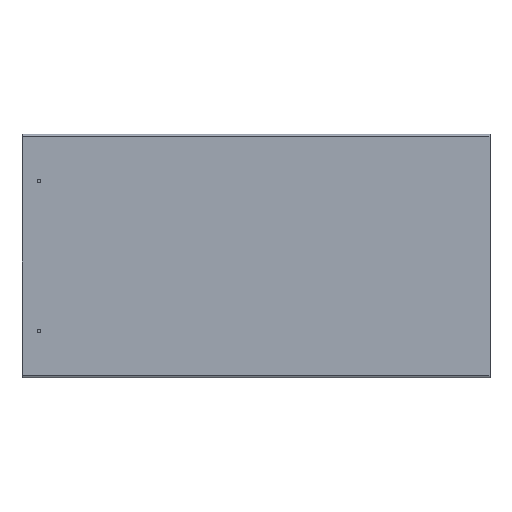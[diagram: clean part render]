
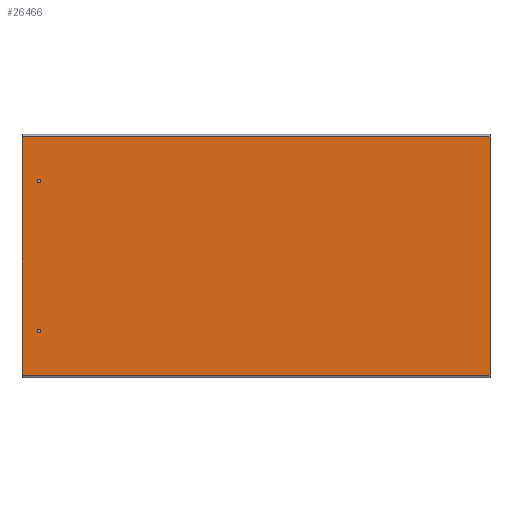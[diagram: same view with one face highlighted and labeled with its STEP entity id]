
A CAD part, top view. The second image highlights one B-rep face of the part: STEP entity #26466.
In plain terms, the highlighted planar face has unit normal (0, 0, 1) as drawn and (0, 0, -1) by its records, which use the part's own axes.
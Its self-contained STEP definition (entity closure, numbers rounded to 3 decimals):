
#755=FACE_BOUND('',#4382,.T.);
#756=FACE_BOUND('',#4383,.T.);
#1438=PLANE('',#29037);
#2703=FACE_OUTER_BOUND('',#4381,.T.);
#4381=EDGE_LOOP('',(#23616,#23617,#23618,#23619));
#4382=EDGE_LOOP('',(#23620));
#4383=EDGE_LOOP('',(#23621));
#6176=LINE('',#44530,#8528);
#6208=LINE('',#44710,#8560);
#6777=LINE('',#46196,#9129);
#6779=LINE('',#46201,#9131);
#8528=VECTOR('',#34798,1276.);
#8560=VECTOR('',#34952,1276.);
#9129=VECTOR('',#36431,2500.);
#9131=VECTOR('',#36439,2500.);
#10314=CIRCLE('',#28845,9.5);
#10316=CIRCLE('',#28848,9.5);
#12301=VERTEX_POINT('',#44527);
#12302=VERTEX_POINT('',#44529);
#12388=VERTEX_POINT('',#44707);
#12389=VERTEX_POINT('',#44709);
#12783=VERTEX_POINT('',#45795);
#12785=VERTEX_POINT('',#45800);
#15689=EDGE_CURVE('',#12302,#12301,#6176,.T.);
#15779=EDGE_CURVE('',#12389,#12388,#6208,.T.);
#16309=EDGE_CURVE('',#12783,#12783,#10314,.T.);
#16311=EDGE_CURVE('',#12785,#12785,#10316,.T.);
#16507=EDGE_CURVE('',#12388,#12302,#6777,.T.);
#16509=EDGE_CURVE('',#12301,#12389,#6779,.T.);
#23616=ORIENTED_EDGE('',*,*,#16509,.T.);
#23617=ORIENTED_EDGE('',*,*,#15779,.T.);
#23618=ORIENTED_EDGE('',*,*,#16507,.T.);
#23619=ORIENTED_EDGE('',*,*,#15689,.T.);
#23620=ORIENTED_EDGE('',*,*,#16309,.T.);
#23621=ORIENTED_EDGE('',*,*,#16311,.T.);
#26466=ADVANCED_FACE('',(#2703,#755,#756),#1438,.F.);
#28845=AXIS2_PLACEMENT_3D('',#45796,#35912,#35913);
#28848=AXIS2_PLACEMENT_3D('',#45801,#35918,#35919);
#29037=AXIS2_PLACEMENT_3D('',#46205,#36445,#36446);
#34798=DIRECTION('',(0.,1.,0.));
#34952=DIRECTION('',(0.,-1.,0.));
#35912=DIRECTION('center_axis',(0.,0.,1.));
#35913=DIRECTION('ref_axis',(1.,0.,0.));
#35918=DIRECTION('center_axis',(0.,0.,1.));
#35919=DIRECTION('ref_axis',(1.,0.,0.));
#36431=DIRECTION('',(-1.,0.,0.));
#36439=DIRECTION('',(1.,0.,0.));
#36445=DIRECTION('center_axis',(0.,0.,1.));
#36446=DIRECTION('ref_axis',(1.,0.,0.));
#44527=CARTESIAN_POINT('',(0.,638.,0.));
#44529=CARTESIAN_POINT('',(0.,-638.,0.));
#44530=CARTESIAN_POINT('',(0.,-650.,0.));
#44707=CARTESIAN_POINT('',(2500.,-638.,0.));
#44709=CARTESIAN_POINT('',(2500.,638.,0.));
#44710=CARTESIAN_POINT('',(2500.,650.,0.));
#45795=CARTESIAN_POINT('',(2419.5,-400.,0.));
#45796=CARTESIAN_POINT('Origin',(2410.,-400.,0.));
#45800=CARTESIAN_POINT('',(2419.5,400.,0.));
#45801=CARTESIAN_POINT('Origin',(2410.,400.,0.));
#46196=CARTESIAN_POINT('',(1875.,-638.,0.));
#46201=CARTESIAN_POINT('',(625.,638.,0.));
#46205=CARTESIAN_POINT('Origin',(1250.,0.,0.));
